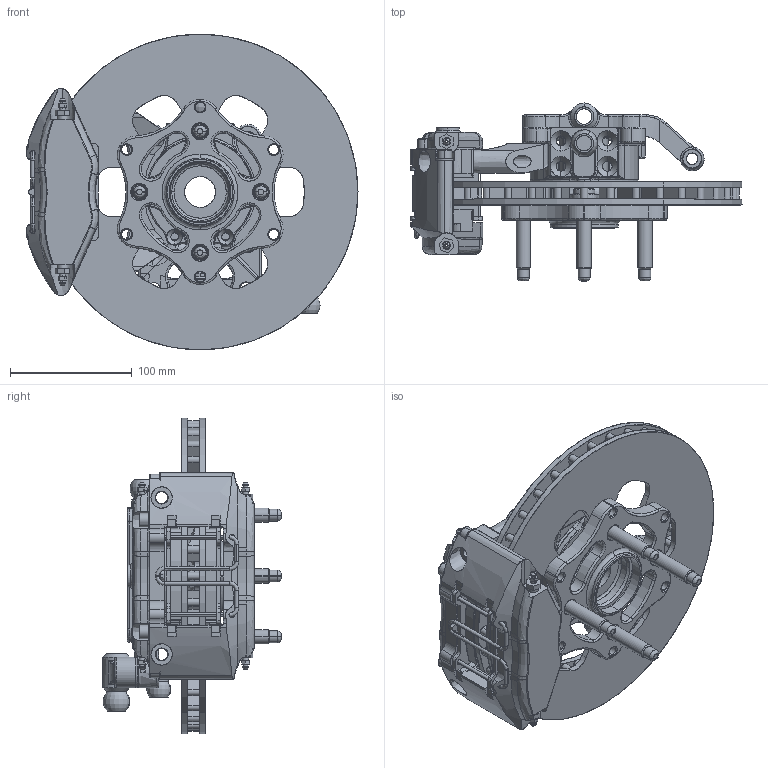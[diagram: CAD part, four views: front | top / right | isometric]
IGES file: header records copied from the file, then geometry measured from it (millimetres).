
Start section: SolidWorks IGES file using analytic representation for surfaces
Global section: file name: C:\projects\PM Parts\LT Upright Assembly.IGS; native system: SolidWorks 2010; preprocessor: SolidWorks 2010; author: dp; date: 100301.200434; units: inch
Bounding box: 273.18 x 146.54 x 259.85 mm (x, y, z)
Surface area: 378770.2 mm2 (no closed solid volume)
Topology: 0 solids, 0 shells, 1499 faces, 21915 edges, 21842 vertices
Faces by surface type: revolution 821, bspline 678
